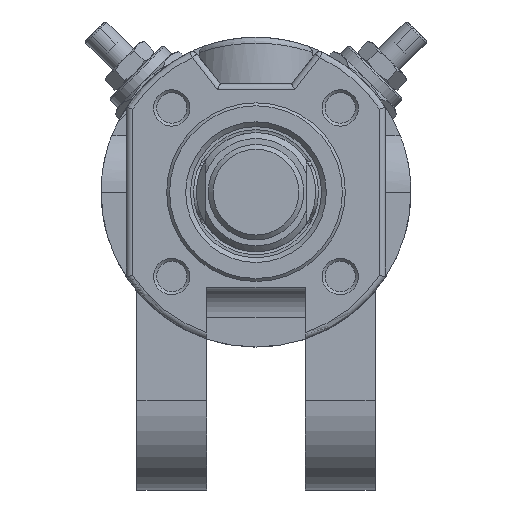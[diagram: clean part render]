
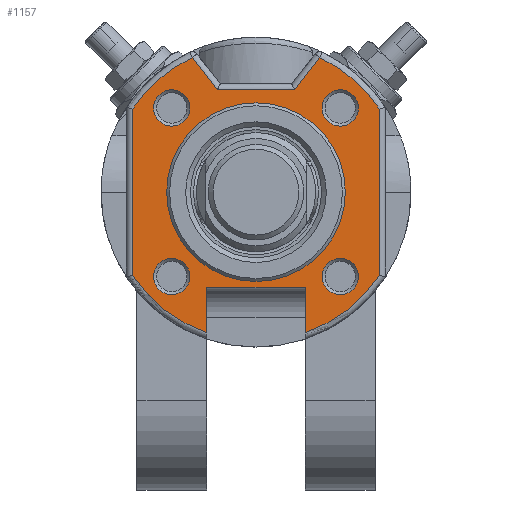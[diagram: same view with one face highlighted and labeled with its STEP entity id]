
A CAD part, front view. The second image highlights one B-rep face of the part: STEP entity #1157.
In plain terms, the highlighted planar face has unit normal (0, -1, 0).
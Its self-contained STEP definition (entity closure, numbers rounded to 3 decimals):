
#141=CARTESIAN_POINT('',(8.25,3.,-23.6));
#142=VERTEX_POINT('',#141);
#168=CARTESIAN_POINT('',(8.25,3.,-16.));
#169=VERTEX_POINT('',#168);
#170=CARTESIAN_POINT('',(8.25,3.,-16.));
#171=DIRECTION('',(0.0,0.0,-1.0));
#172=VECTOR('',#171,7.6);
#173=LINE('',#170,#172);
#174=EDGE_CURVE('',#169,#142,#173,.T.);
#227=CARTESIAN_POINT('',(-8.25,3.,-16.));
#228=VERTEX_POINT('',#227);
#235=CARTESIAN_POINT('',(-8.25,3.,-23.6));
#236=VERTEX_POINT('',#235);
#237=CARTESIAN_POINT('',(-8.25,3.,-23.6));
#238=DIRECTION('',(0.0,0.0,1.0));
#239=VECTOR('',#238,7.6);
#240=LINE('',#237,#239);
#241=EDGE_CURVE('',#236,#228,#240,.T.);
#330=CARTESIAN_POINT('',(-20.75,3.,-13.944));
#331=VERTEX_POINT('',#330);
#332=CARTESIAN_POINT('',(0.0,3.,0.0));
#333=DIRECTION('',(0.0,1.0,0.0));
#334=DIRECTION('',(-0.603,0.0,-0.798));
#335=AXIS2_PLACEMENT_3D('',#332,#333,#334);
#336=CIRCLE('',#335,25.);
#337=EDGE_CURVE('',#236,#331,#336,.T.);
#1021=CARTESIAN_POINT('',(0.,3.,-18.267));
#1022=DIRECTION('',(0.0,1.0,0.0));
#1023=DIRECTION('',(0.0,0.0,1.0));
#1024=AXIS2_PLACEMENT_3D('',#1021,#1022,#1023);
#1025=PLANE('',#1024);
#1026=ORIENTED_EDGE('',*,*,#241,.T.);
#1027=CARTESIAN_POINT('',(8.25,3.,-16.));
#1028=DIRECTION('',(-1.0,0.0,0.0));
#1029=VECTOR('',#1028,16.5);
#1030=LINE('',#1027,#1029);
#1031=EDGE_CURVE('',#169,#228,#1030,.T.);
#1032=ORIENTED_EDGE('',*,*,#1031,.F.);
#1033=ORIENTED_EDGE('',*,*,#174,.T.);
#1034=CARTESIAN_POINT('',(20.75,3.,-13.944));
#1035=VERTEX_POINT('',#1034);
#1036=CARTESIAN_POINT('',(0.0,3.,0.0));
#1037=DIRECTION('',(0.0,1.0,0.0));
#1038=DIRECTION('',(0.603,0.0,-0.798));
#1039=AXIS2_PLACEMENT_3D('',#1036,#1037,#1038);
#1040=CIRCLE('',#1039,25.);
#1041=EDGE_CURVE('',#1035,#142,#1040,.T.);
#1042=ORIENTED_EDGE('',*,*,#1041,.F.);
#1043=CARTESIAN_POINT('',(20.75,3.,13.944));
#1044=VERTEX_POINT('',#1043);
#1045=CARTESIAN_POINT('',(20.75,3.,13.944));
#1046=DIRECTION('',(0.0,0.0,-1.0));
#1047=VECTOR('',#1046,27.888);
#1048=LINE('',#1045,#1047);
#1049=EDGE_CURVE('',#1044,#1035,#1048,.T.);
#1050=ORIENTED_EDGE('',*,*,#1049,.F.);
#1051=CARTESIAN_POINT('',(10.702,3.,22.594));
#1052=VERTEX_POINT('',#1051);
#1053=CARTESIAN_POINT('',(0.0,3.,0.0));
#1054=DIRECTION('',(0.0,1.0,0.0));
#1055=DIRECTION('',(0.657,0.0,0.754));
#1056=AXIS2_PLACEMENT_3D('',#1053,#1054,#1055);
#1057=CIRCLE('',#1056,25.);
#1058=EDGE_CURVE('',#1052,#1044,#1057,.T.);
#1059=ORIENTED_EDGE('',*,*,#1058,.F.);
#1060=CARTESIAN_POINT('',(6.488,3.,17.2));
#1061=VERTEX_POINT('',#1060);
#1062=CARTESIAN_POINT('',(6.488,3.,17.2));
#1063=DIRECTION('',(0.616,0.0,0.788));
#1064=VECTOR('',#1063,6.845);
#1065=LINE('',#1062,#1064);
#1066=EDGE_CURVE('',#1061,#1052,#1065,.T.);
#1067=ORIENTED_EDGE('',*,*,#1066,.F.);
#1068=CARTESIAN_POINT('',(-6.488,3.,17.2));
#1069=VERTEX_POINT('',#1068);
#1070=CARTESIAN_POINT('',(-6.488,3.,17.2));
#1071=DIRECTION('',(1.0,0.0,0.0));
#1072=VECTOR('',#1071,12.975);
#1073=LINE('',#1070,#1072);
#1074=EDGE_CURVE('',#1069,#1061,#1073,.T.);
#1075=ORIENTED_EDGE('',*,*,#1074,.F.);
#1076=CARTESIAN_POINT('',(-10.702,3.,22.594));
#1077=VERTEX_POINT('',#1076);
#1078=CARTESIAN_POINT('',(-10.702,3.,22.594));
#1079=DIRECTION('',(0.616,0.0,-0.788));
#1080=VECTOR('',#1079,6.845);
#1081=LINE('',#1078,#1080);
#1082=EDGE_CURVE('',#1077,#1069,#1081,.T.);
#1083=ORIENTED_EDGE('',*,*,#1082,.F.);
#1084=CARTESIAN_POINT('',(-20.75,3.,13.944));
#1085=VERTEX_POINT('',#1084);
#1086=CARTESIAN_POINT('',(0.0,3.,0.0));
#1087=DIRECTION('',(0.0,1.0,0.0));
#1088=DIRECTION('',(-0.657,0.0,0.754));
#1089=AXIS2_PLACEMENT_3D('',#1086,#1087,#1088);
#1090=CIRCLE('',#1089,25.);
#1091=EDGE_CURVE('',#1085,#1077,#1090,.T.);
#1092=ORIENTED_EDGE('',*,*,#1091,.F.);
#1093=CARTESIAN_POINT('',(-20.75,3.,-13.944));
#1094=DIRECTION('',(0.0,0.0,1.0));
#1095=VECTOR('',#1094,27.888);
#1096=LINE('',#1093,#1095);
#1097=EDGE_CURVE('',#331,#1085,#1096,.T.);
#1098=ORIENTED_EDGE('',*,*,#1097,.F.);
#1099=ORIENTED_EDGE('',*,*,#337,.F.);
#1100=EDGE_LOOP('',(#1026,#1032,#1033,#1042,#1050,#1059,#1067,#1075,#1083,#1092,#1098,#1099));
#1101=FACE_OUTER_BOUND('',#1100,.T.);
#1102=CARTESIAN_POINT('',(11.092,3.,-14.142));
#1103=VERTEX_POINT('',#1102);
#1104=CARTESIAN_POINT('',(14.142,3.,-14.142));
#1105=DIRECTION('',(0.0,-1.0,0.0));
#1106=DIRECTION('',(1.0,0.0,0.0));
#1107=AXIS2_PLACEMENT_3D('',#1104,#1105,#1106);
#1108=CIRCLE('',#1107,3.05);
#1109=EDGE_CURVE('',#1103,#1103,#1108,.T.);
#1110=ORIENTED_EDGE('',*,*,#1109,.F.);
#1111=EDGE_LOOP('',(#1110));
#1112=FACE_BOUND('',#1111,.T.);
#1113=CARTESIAN_POINT('',(14.142,3.,11.092));
#1114=VERTEX_POINT('',#1113);
#1115=CARTESIAN_POINT('',(14.142,3.,14.142));
#1116=DIRECTION('',(0.0,-1.0,0.0));
#1117=DIRECTION('',(0.0,0.0,1.0));
#1118=AXIS2_PLACEMENT_3D('',#1115,#1116,#1117);
#1119=CIRCLE('',#1118,3.05);
#1120=EDGE_CURVE('',#1114,#1114,#1119,.T.);
#1121=ORIENTED_EDGE('',*,*,#1120,.F.);
#1122=EDGE_LOOP('',(#1121));
#1123=FACE_BOUND('',#1122,.T.);
#1124=CARTESIAN_POINT('',(15.0,3.,0.));
#1125=VERTEX_POINT('',#1124);
#1126=CARTESIAN_POINT('',(0.0,3.,0.0));
#1127=DIRECTION('',(0.0,-1.0,0.0));
#1128=DIRECTION('',(-1.0,0.0,0.0));
#1129=AXIS2_PLACEMENT_3D('',#1126,#1127,#1128);
#1130=CIRCLE('',#1129,15.0);
#1131=EDGE_CURVE('',#1125,#1125,#1130,.T.);
#1132=ORIENTED_EDGE('',*,*,#1131,.F.);
#1133=EDGE_LOOP('',(#1132));
#1134=FACE_BOUND('',#1133,.T.);
#1135=CARTESIAN_POINT('',(-11.092,3.,14.142));
#1136=VERTEX_POINT('',#1135);
#1137=CARTESIAN_POINT('',(-14.142,3.,14.142));
#1138=DIRECTION('',(0.0,-1.0,0.0));
#1139=DIRECTION('',(-1.0,0.0,0.0));
#1140=AXIS2_PLACEMENT_3D('',#1137,#1138,#1139);
#1141=CIRCLE('',#1140,3.05);
#1142=EDGE_CURVE('',#1136,#1136,#1141,.T.);
#1143=ORIENTED_EDGE('',*,*,#1142,.F.);
#1144=EDGE_LOOP('',(#1143));
#1145=FACE_BOUND('',#1144,.T.);
#1146=CARTESIAN_POINT('',(-14.142,3.,-11.092));
#1147=VERTEX_POINT('',#1146);
#1148=CARTESIAN_POINT('',(-14.142,3.,-14.142));
#1149=DIRECTION('',(0.0,-1.0,0.0));
#1150=DIRECTION('',(0.0,0.0,-1.0));
#1151=AXIS2_PLACEMENT_3D('',#1148,#1149,#1150);
#1152=CIRCLE('',#1151,3.05);
#1153=EDGE_CURVE('',#1147,#1147,#1152,.T.);
#1154=ORIENTED_EDGE('',*,*,#1153,.F.);
#1155=EDGE_LOOP('',(#1154));
#1156=FACE_BOUND('',#1155,.T.);
#1157=ADVANCED_FACE('',(#1101,#1112,#1123,#1134,#1145,#1156),#1025,.F.);
